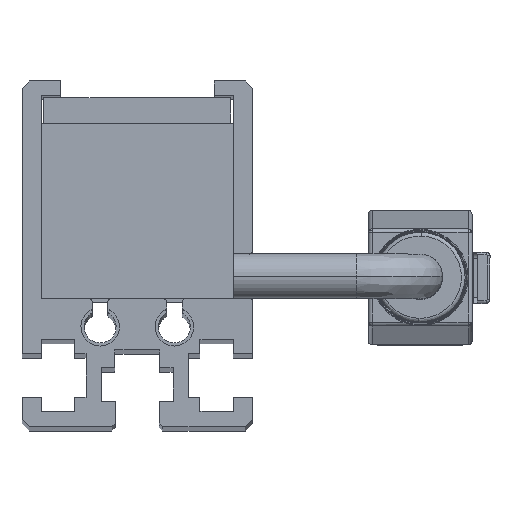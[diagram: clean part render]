
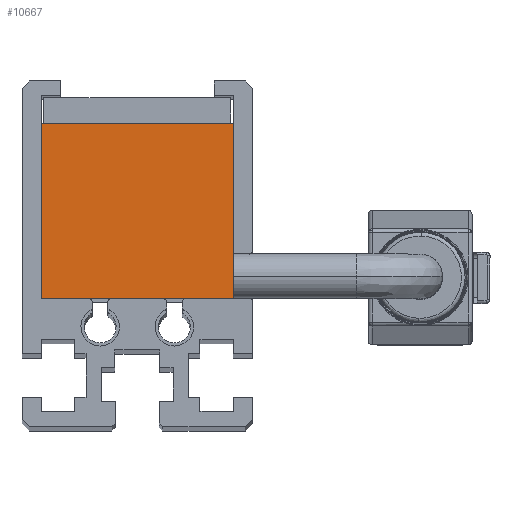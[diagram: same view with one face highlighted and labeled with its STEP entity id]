
A CAD part, top view. The second image highlights one B-rep face of the part: STEP entity #10667.
In plain terms, the highlighted planar face has unit normal (0, 0, 1).
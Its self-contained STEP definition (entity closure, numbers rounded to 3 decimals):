
#21 = EDGE_CURVE ( 'NONE', #10065, #13124, #11134, .T. ) ;
#1076 = CARTESIAN_POINT ( 'NONE',  ( 7.5, 13.7, 96. ) ) ;
#2219 = VECTOR ( 'NONE', #13526, 1000. ) ;
#2268 = VERTEX_POINT ( 'NONE', #13298 ) ;
#2289 = VECTOR ( 'NONE', #10418, 1000. ) ;
#3752 = ORIENTED_EDGE ( 'NONE', *, *, #10543, .F. ) ;
#4107 = VECTOR ( 'NONE', #10816, 1000. ) ;
#4910 = EDGE_CURVE ( 'NONE', #7949, #2268, #10964, .T. ) ;
#5189 = CARTESIAN_POINT ( 'NONE',  ( 7.5, 13.7, 96. ) ) ;
#5242 = DIRECTION ( 'NONE',  ( 0., 0., -1. ) ) ;
#5320 = LINE ( 'NONE', #1076, #2219 ) ;
#5532 = EDGE_CURVE ( 'NONE', #13124, #2268, #7540, .T. ) ;
#5917 = FACE_OUTER_BOUND ( 'NONE', #6926, .T. ) ;
#5941 = CARTESIAN_POINT ( 'NONE',  ( -7.5, 13.7, 96. ) ) ;
#6926 = EDGE_LOOP ( 'NONE', ( #10118, #12939, #3752, #11506 ) ) ;
#7440 = DIRECTION ( 'NONE',  ( -1., 0., 0. ) ) ;
#7540 = LINE ( 'NONE', #11714, #2289 ) ;
#7949 = VERTEX_POINT ( 'NONE', #8159 ) ;
#8159 = CARTESIAN_POINT ( 'NONE',  ( 7.5, 0., 96. ) ) ;
#8272 = AXIS2_PLACEMENT_3D ( 'NONE', #5189, #5242, #15223 ) ;
#8316 = CARTESIAN_POINT ( 'NONE',  ( 7.5, 13.7, 96. ) ) ;
#10065 = VERTEX_POINT ( 'NONE', #13541 ) ;
#10118 = ORIENTED_EDGE ( 'NONE', *, *, #5532, .T. ) ;
#10418 = DIRECTION ( 'NONE',  ( 0., -1., 0. ) ) ;
#10543 = EDGE_CURVE ( 'NONE', #10065, #7949, #5320, .T. ) ;
#10667 = ADVANCED_FACE ( 'NONE', ( #5917 ), #12684, .F. ) ;
#10816 = DIRECTION ( 'NONE',  ( -1., 0., 0. ) ) ;
#10964 = LINE ( 'NONE', #14763, #15071 ) ;
#11134 = LINE ( 'NONE', #8316, #4107 ) ;
#11506 = ORIENTED_EDGE ( 'NONE', *, *, #21, .T. ) ;
#11714 = CARTESIAN_POINT ( 'NONE',  ( -7.5, 13.7, 96. ) ) ;
#12684 = PLANE ( 'NONE',  #8272 ) ;
#12939 = ORIENTED_EDGE ( 'NONE', *, *, #4910, .F. ) ;
#13124 = VERTEX_POINT ( 'NONE', #5941 ) ;
#13298 = CARTESIAN_POINT ( 'NONE',  ( -7.5, 0., 96. ) ) ;
#13526 = DIRECTION ( 'NONE',  ( 0., -1., 0. ) ) ;
#13541 = CARTESIAN_POINT ( 'NONE',  ( 7.5, 13.7, 96. ) ) ;
#14763 = CARTESIAN_POINT ( 'NONE',  ( 7.5, 0., 96. ) ) ;
#15071 = VECTOR ( 'NONE', #7440, 1000. ) ;
#15223 = DIRECTION ( 'NONE',  ( -1., 0., 0. ) ) ;
